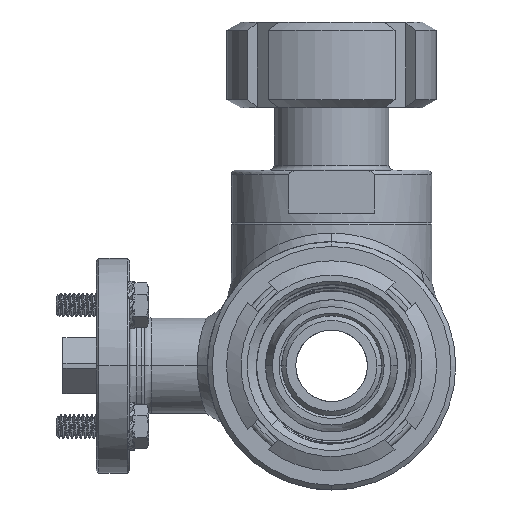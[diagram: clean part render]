
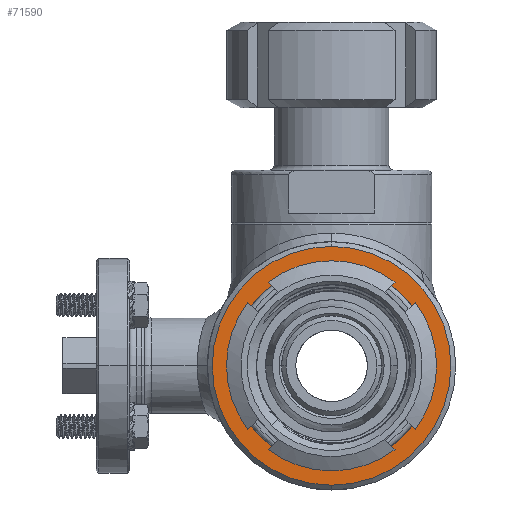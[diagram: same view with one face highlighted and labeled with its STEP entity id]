
A CAD part, left-side view. The second image highlights one B-rep face of the part: STEP entity #71590.
In plain terms, the highlighted planar face has unit normal (-1, 0, 0).
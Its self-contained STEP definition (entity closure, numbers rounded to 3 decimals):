
#19=CARTESIAN_POINT('',(-30.,0.,0.));
#20=DIRECTION('',(-1.,0.,0.));
#21=DIRECTION('',(0.,0.,-1.));
#22=AXIS2_PLACEMENT_3D('',#19,#20,#21);
#28=CARTESIAN_POINT('',(-30.,0.,0.));
#29=DIRECTION('',(-1.,0.,0.));
#30=DIRECTION('',(0.,0.,1.));
#31=AXIS2_PLACEMENT_3D('',#28,#29,#30);
#36=CARTESIAN_POINT('',(-30.,0.,0.));
#37=DIRECTION('',(-1.,0.,0.));
#38=DIRECTION('',(0.,-1.,0.));
#39=AXIS2_PLACEMENT_3D('',#36,#37,#38);
#44=CARTESIAN_POINT('',(-30.,0.,0.));
#45=DIRECTION('',(-1.,0.,0.));
#46=DIRECTION('',(0.,1.,0.));
#47=AXIS2_PLACEMENT_3D('',#44,#45,#46);
#66938=CARTESIAN_POINT('',(-30.,0.,-25.));
#66939=CARTESIAN_POINT('',(-30.,0.,25.));
#66940=VERTEX_POINT('',#66938);
#66941=VERTEX_POINT('',#66939);
#68706=CARTESIAN_POINT('',(-30.,-21.,0.));
#68707=CARTESIAN_POINT('',(-30.,21.,0.));
#68708=VERTEX_POINT('',#68706);
#68709=VERTEX_POINT('',#68707);
#71573=CARTESIAN_POINT('',(-30.,0.,0.));
#71574=DIRECTION('',(1.,0.,0.));
#71575=DIRECTION('',(0.,0.,1.));
#71576=AXIS2_PLACEMENT_3D('',#71573,#71574,#71575);
#71577=PLANE('',#71576);
#71579=ORIENTED_EDGE('',*,*,#71578,.F.);
#71581=ORIENTED_EDGE('',*,*,#71580,.F.);
#71582=EDGE_LOOP('',(#71579,#71581));
#71583=FACE_OUTER_BOUND('',#71582,.F.);
#71585=ORIENTED_EDGE('',*,*,#71584,.T.);
#71587=ORIENTED_EDGE('',*,*,#71586,.T.);
#71588=EDGE_LOOP('',(#71585,#71587));
#71589=FACE_BOUND('',#71588,.F.);
#71590=ADVANCED_FACE('',(#71583,#71589),#71577,.F.);
#23=CIRCLE('',#22,25.);
#32=CIRCLE('',#31,25.);
#40=CIRCLE('',#39,21.);
#48=CIRCLE('',#47,21.);
#71578=EDGE_CURVE('',#66940,#66941,#23,.T.);
#71580=EDGE_CURVE('',#66941,#66940,#32,.T.);
#71584=EDGE_CURVE('',#68708,#68709,#40,.T.);
#71586=EDGE_CURVE('',#68709,#68708,#48,.T.);
